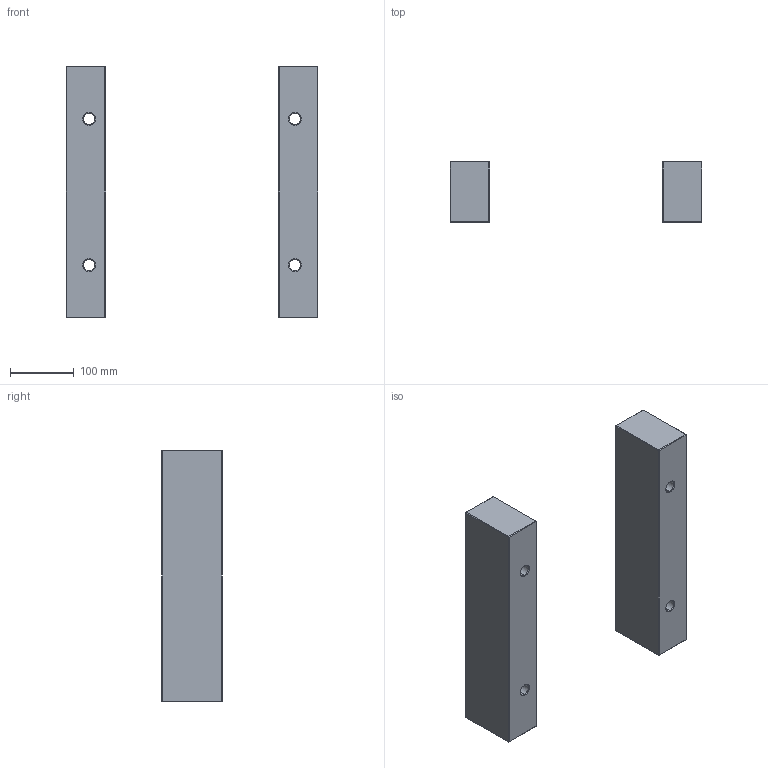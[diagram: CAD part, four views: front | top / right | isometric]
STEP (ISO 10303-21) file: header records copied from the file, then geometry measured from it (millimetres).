
FILE_DESCRIPTION (( 'STEP AP214' ), '1' );
FILE_NAME ('ESP-396X396x96.STEP', '2020-04-14T08:40:08', ( 'August' ), ( '' ), 'SwSTEP 2.0', 'SolidWorks 2018', '' );
FILE_SCHEMA (( 'AUTOMOTIVE_DESIGN' ));
Length unit declared in the file: millimetre
Products named in the file (1): ESP-396X396x96
Bounding box: 396 x 96 x 396 mm (x, y, z)
Volume: 4613828 mm3; surface area: 290902.1 mm2
Topology: 2 solids, 2 shells, 76 faces, 152 edges, 80 vertices
Faces by surface type: plane 52, cone 16, cylinder 8
Entity records: 1935 total; most frequent: DIRECTION 338, CARTESIAN_POINT 309, ORIENTED_EDGE 304, EDGE_CURVE 152, LINE 120, VECTOR 120, AXIS2_PLACEMENT_3D 109, EDGE_LOOP 84
